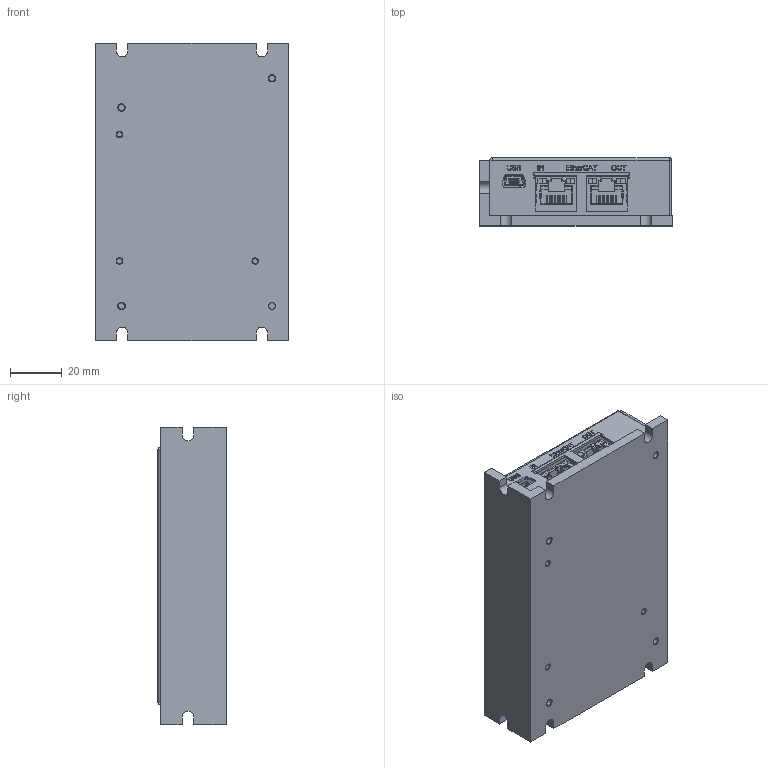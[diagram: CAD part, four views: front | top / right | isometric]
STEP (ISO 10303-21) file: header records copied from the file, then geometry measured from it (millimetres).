
FILE_DESCRIPTION (( 'STEP AP203' ), '1' );
FILE_NAME ('Gold-DC-BELL-empty.STEP', '2012-08-16T04:52:44', ( 'YAEL' ), ( 'Microsoft' ), 'SwSTEP 2.0', 'SolidWorks 2012', '' );
FILE_SCHEMA (( 'CONFIG_CONTROL_DESIGN' ));
Length unit declared in the file: millimetre
Products named in the file (1): Gold-DC-BELL-empty
Bounding box: 75 x 26.4 x 115 mm (x, y, z)
Volume: 66169.7 mm3; surface area: 64491 mm2
Topology: 25 solids, 25 shells, 5849 faces, 15691 edges, 10236 vertices
Faces by surface type: plane 4595, cylinder 672, bspline 484, cone 62, torus 36
Entity records: 203993 total; most frequent: CARTESIAN_POINT 59818, ORIENTED_EDGE 31334, DIRECTION 26781, EDGE_CURVE 15667, LINE 13193, VECTOR 13193, VERTEX_POINT 10236, AXIS2_PLACEMENT_3D 6794
